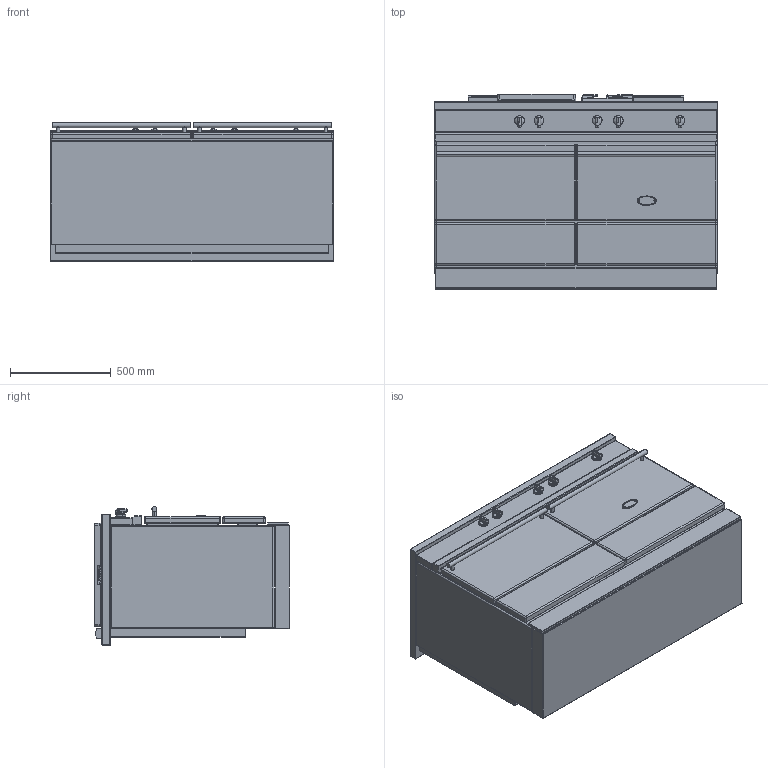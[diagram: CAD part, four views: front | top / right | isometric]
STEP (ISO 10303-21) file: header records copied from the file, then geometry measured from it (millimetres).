
FILE_DESCRIPTION((''),'2;1');
FILE_NAME('LMCF1432_ASM','2022-04-13T11:51:50',('stagiaire'),(''),'CREO PARAMETRIC BY PTC INC, 2021424','CREO PARAMETRIC BY PTC INC, 2021424','');
FILE_SCHEMA(('AP203_CONFIGURATION_CONTROLLED_3D_DESIGN_OF_MECHANICAL_PARTS_AND_ASSEMBLIES_MIM_LF { 1 0 10303 403 2 1 2 }'));
Products named in the file (20): BASE_EXPORT_SULLY_LMG1432; 65064012; 19150009; 88064012_ASM; 65049009; 65650001; BASE_EXPORT_SULLY_LMG1432_ASM; TABLE_SULLY_1405_3_FEUX; 5KW; 1_5KW; 3KW; 6537023; 65149005; 90000565_ASM; 65062008; 65062012; 90000549_ASM; CHEMINEE_2020_LG371_EXPORT_STEP; TABLE_SULLY_1405_TRADITION_ASM; LMCF1432_ASM
Assembly tree (31 placements, depth 4):
  LMCF1432_ASM
    BASE_EXPORT_SULLY_LMG1432_ASM
      BASE_EXPORT_SULLY_LMG1432
      88064012_ASM  x5
        65064012
        19150009
      65049009
      65650001
    TABLE_SULLY_1405_TRADITION_ASM
      TABLE_SULLY_1405_3_FEUX
      5KW
      1_5KW
      3KW
      90000565_ASM
        6537023
        65149005  x4
      90000549_ASM
        65062008
        65062012
        65149005  x4
      CHEMINEE_2020_LG371_EXPORT_STEP  x2
Bounding box: 1405 x 967 x 688.5 mm (x, y, z)
Volume: 751950450.5 mm3; surface area: 11354953.9 mm2
Topology: 34 solids, 34 shells, 5578 faces, 15104 edges, 9548 vertices
Faces by surface type: plane 2519, cylinder 1629, bspline 747, sphere 322, torus 183, cone 156, extrusion 22
Entity records: 194559 total; most frequent: CARTESIAN_POINT 55987, ORIENTED_EDGE 22226, DIRECTION 20446, EDGE_CURVE 11113, PRESENTATION_STYLE_ASSIGNMENT 8829, STYLED_ITEM 8829, CURVE_STYLE 8658, VECTOR 7675
